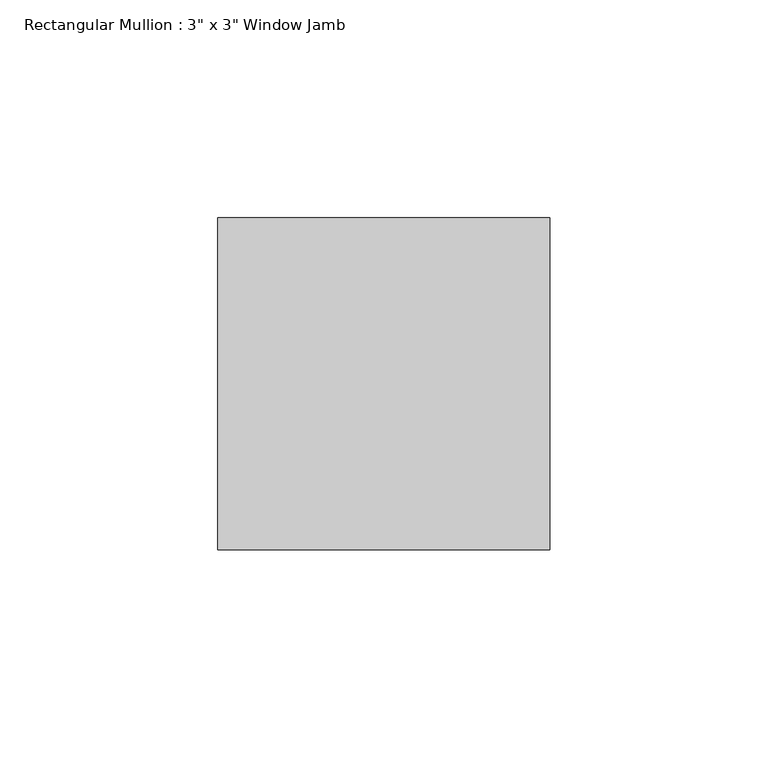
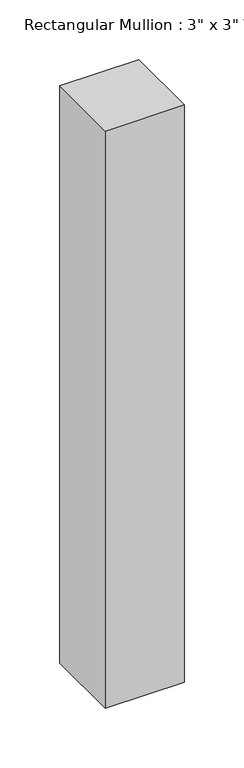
"""IFC4 building model written with IfcOpenShell, lengths in millimetres: member geometry."""

from ifc_helpers import new_model, si_unit, frame, origin, place, context, project, spatial, polyline, outline, extrude, source, transform, mapped, element, save


def member_1293f902(model_context):
    return source(origin(), model_context, "Body", "SweptSolid", [
        extrude(outline(polyline([(0.0, 50.8), (0.0, -25.4), (-76.2, -25.4), (-76.2, 50.8), (0.0, 50.8)])), frame((0.0, 0.0, -589.4898817), z_axis=(0.0, 0.0, 1.0), x_axis=(1.0, 0.0, 0.0)), (0.0, 0.0, 1.0), 589.4898817),
    ])


if __name__ == "__main__":
    model = new_model("IFC4")
    model_context = context("Model", 3, world=origin())
    ifc_project = project(units=[si_unit("LENGTHUNIT", "METRE", prefix="MILLI")], contexts=[model_context])
    site = spatial("IfcSite", under=ifc_project)
    building = spatial("IfcBuilding", under=site)
    placement = place(None, origin())
    member_shape = member_1293f902(model_context)
    element("IfcMember", 1, ObjectType="Rectangular Mullion : 3\" x 3\" Window Jamb", at=placement, inside=building, context=model_context, shape_type="MappedRepresentation", body=[
        mapped(member_shape, transform((0.0, 0.0, 0.0), x_axis=(1.0, 0.0, 0.0), y_axis=(0.0, 1.0, 0.0), z_axis=(0.0, 0.0, 1.0))),
    ])
    save(model, "model.ifc")
